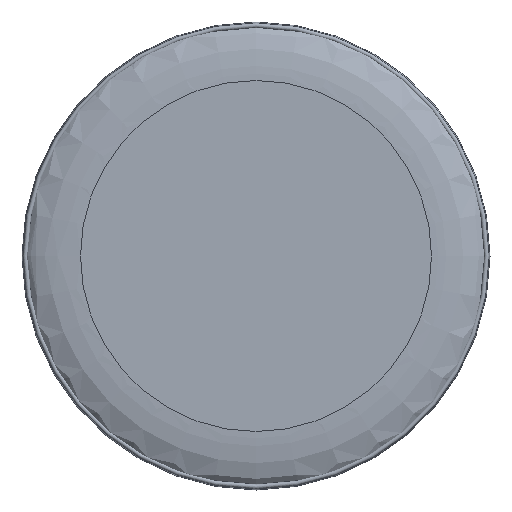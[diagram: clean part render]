
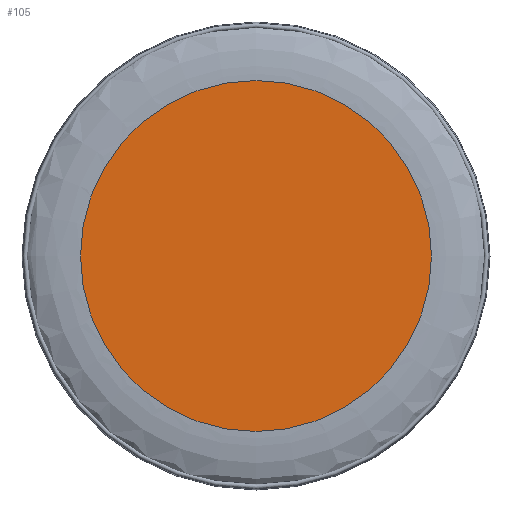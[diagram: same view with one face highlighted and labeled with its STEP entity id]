
A CAD part, front view. The second image highlights one B-rep face of the part: STEP entity #105.
In plain terms, the highlighted planar face has unit normal (0, -1, 0).
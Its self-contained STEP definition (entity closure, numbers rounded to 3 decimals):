
#22=PLANE('',#132);
#30=FACE_OUTER_BOUND('',#37,.T.);
#37=EDGE_LOOP('',(#90));
#40=CIRCLE('',#124,300.024);
#52=VERTEX_POINT('',#263);
#61=EDGE_CURVE('',#52,#52,#40,.T.);
#90=ORIENTED_EDGE('',*,*,#61,.F.);
#105=ADVANCED_FACE('',(#30),#22,.T.);
#124=AXIS2_PLACEMENT_3D('',#275,#141,#142);
#132=AXIS2_PLACEMENT_3D('',#388,#158,#159);
#141=DIRECTION('center_axis',(0.,1.,0.));
#142=DIRECTION('ref_axis',(1.,0.,0.));
#158=DIRECTION('center_axis',(0.,-1.,0.));
#159=DIRECTION('ref_axis',(0.,0.,-1.));
#263=CARTESIAN_POINT('',(-150.024,0.,0.));
#275=CARTESIAN_POINT('Origin',(150.,0.,0.));
#388=CARTESIAN_POINT('Origin',(0.,0.,0.));
